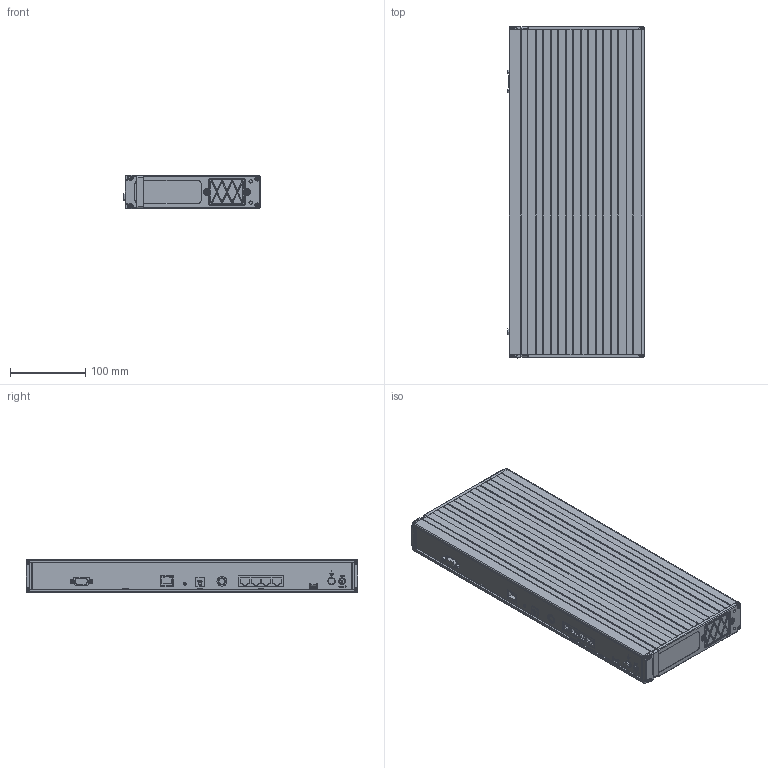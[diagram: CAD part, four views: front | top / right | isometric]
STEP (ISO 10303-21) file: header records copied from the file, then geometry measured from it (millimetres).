
FILE_DESCRIPTION(/* description */ (''),/* implementation_level */ '2;1');
FILE_NAME(/* name */ 'LA-5623-0500_A.stp',/* time_stamp */ '2018-06-08T11:50:34+01:00',/* author */ (''),/* organization */ (''),/* preprocessor_version */ 'ST-DEVELOPER v16',/* originating_system */ 'SIEMENS PLM Software NX 10.0',/* authorisation */ '');
FILE_SCHEMA (('AUTOMOTIVE_DESIGN { 1 0 10303 214 3 1 1 1 }'));
Products named in the file (1): aj060C2C93DFzs7a
Bounding box: 181.35 x 440 x 44.09 mm (x, y, z)
Volume: 518462.7 mm3; surface area: 467699.7 mm2
Topology: 2 solids, 2 shells, 2734 faces, 7242 edges, 4518 vertices
Faces by surface type: plane 1089, cylinder 943, torus 281, cone 183, bspline 162, sphere 76
Full cylindrical faces by diameter (mm): 2 x5, 2.2 x1, 2.35 x2, 2.5 x2, 2.54 x1, 2.845 x2, 2.9 x8, 3.1 x5, 3.2 x8, 3.5 x3, 3.8 x6, 4 x1, 4.351 x4, 4.5 x1, 5 x2, 5.39 x1, 5.5 x8, 6.5 x1, 6.7 x4, 7.5 x1, 8 x1, 8.7 x1, 9 x2, 9.25 x1, 9.82 x1, 13 x2, 13.5 x1
Entity records: 96417 total; most frequent: CARTESIAN_POINT 22459, DIRECTION 14095, ORIENTED_EDGE 13912, EDGE_CURVE 6956, AXIS2_PLACEMENT_3D 5326, VERTEX_POINT 4448, LINE 3443, VECTOR 3443
